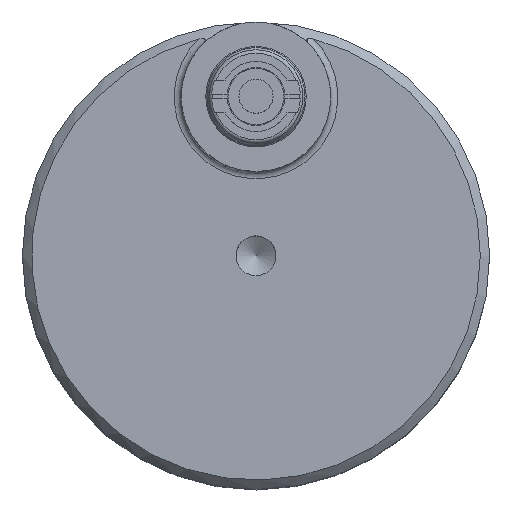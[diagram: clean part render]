
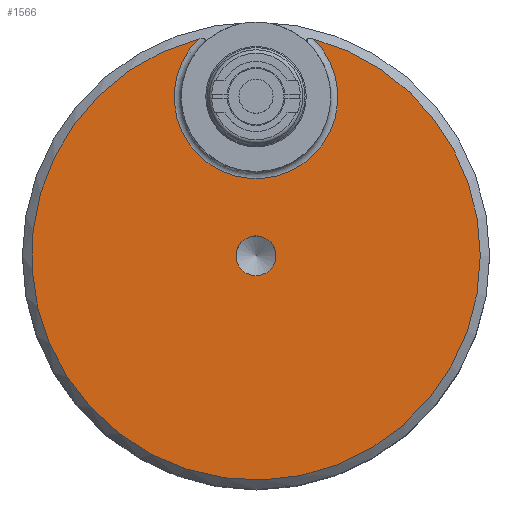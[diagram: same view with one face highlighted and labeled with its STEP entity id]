
A CAD part, top view. The second image highlights one B-rep face of the part: STEP entity #1566.
In plain terms, the highlighted planar face has unit normal (0, 0, 1).
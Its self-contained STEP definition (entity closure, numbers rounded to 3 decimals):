
#163=FACE_BOUND('',#617,.T.);
#184=PLANE('',#1758);
#509=FACE_OUTER_BOUND('',#616,.T.);
#616=EDGE_LOOP('',(#1282,#1283,#1284));
#617=EDGE_LOOP('',(#1285));
#711=CIRCLE('',#1722,17.5);
#728=CIRCLE('',#1753,48.);
#731=CIRCLE('',#1756,48.);
#732=CIRCLE('',#1759,4.263);
#809=VERTEX_POINT('',#2561);
#810=VERTEX_POINT('',#2580);
#829=VERTEX_POINT('',#2671);
#832=VERTEX_POINT('',#2682);
#976=EDGE_CURVE('',#809,#810,#711,.T.);
#1005=EDGE_CURVE('',#810,#829,#728,.T.);
#1009=EDGE_CURVE('',#829,#809,#731,.T.);
#1011=EDGE_CURVE('',#832,#832,#732,.T.);
#1282=ORIENTED_EDGE('',*,*,#976,.F.);
#1283=ORIENTED_EDGE('',*,*,#1009,.F.);
#1284=ORIENTED_EDGE('',*,*,#1005,.F.);
#1285=ORIENTED_EDGE('',*,*,#1011,.T.);
#1566=ADVANCED_FACE('',(#509,#163),#184,.T.);
#1722=AXIS2_PLACEMENT_3D('',#2581,#1984,#1985);
#1753=AXIS2_PLACEMENT_3D('',#2672,#2055,#2056);
#1756=AXIS2_PLACEMENT_3D('',#2678,#2062,#2063);
#1758=AXIS2_PLACEMENT_3D('',#2681,#2067,#2068);
#1759=AXIS2_PLACEMENT_3D('',#2683,#2069,#2070);
#1984=DIRECTION('center_axis',(0.,0.,1.));
#1985=DIRECTION('ref_axis',(0.,-1.,0.));
#2055=DIRECTION('center_axis',(0.,0.,-1.));
#2056=DIRECTION('ref_axis',(-1.,0.,0.));
#2062=DIRECTION('center_axis',(0.,0.,-1.));
#2063=DIRECTION('ref_axis',(-1.,0.,0.));
#2067=DIRECTION('center_axis',(0.,0.,1.));
#2068=DIRECTION('ref_axis',(1.,0.,0.));
#2069=DIRECTION('center_axis',(0.,0.,-1.));
#2070=DIRECTION('ref_axis',(1.,0.,0.));
#2561=CARTESIAN_POINT('',(-12.37,46.379,70.));
#2580=CARTESIAN_POINT('',(12.37,46.379,70.));
#2581=CARTESIAN_POINT('Origin',(0.,34.,70.));
#2671=CARTESIAN_POINT('',(48.,0.,70.));
#2672=CARTESIAN_POINT('Origin',(0.,0.,70.));
#2678=CARTESIAN_POINT('Origin',(0.,0.,70.));
#2681=CARTESIAN_POINT('Origin',(0.,0.,70.));
#2682=CARTESIAN_POINT('',(-4.263,0.,70.));
#2683=CARTESIAN_POINT('Origin',(0.,0.,70.));
